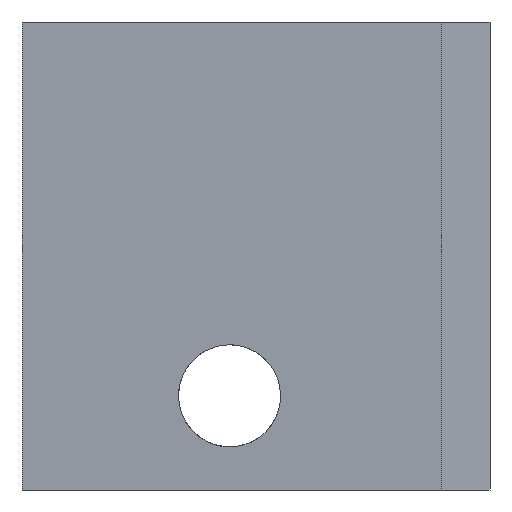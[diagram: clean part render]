
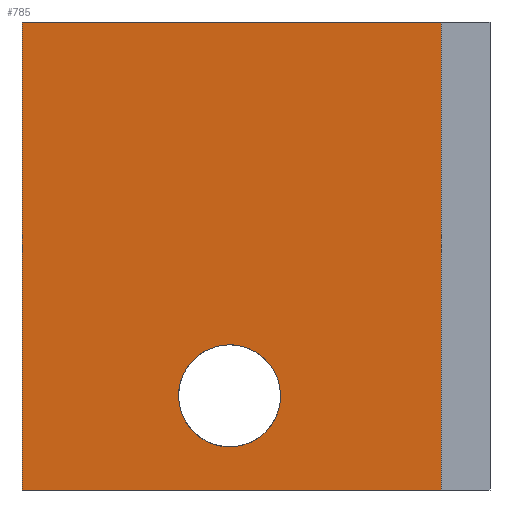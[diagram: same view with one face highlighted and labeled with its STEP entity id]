
A CAD part, front view. The second image highlights one B-rep face of the part: STEP entity #785.
In plain terms, the highlighted planar face has unit normal (0, -0.999, -0.055).
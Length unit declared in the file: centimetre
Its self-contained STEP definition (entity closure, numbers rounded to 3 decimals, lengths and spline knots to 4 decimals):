
#5 = CARTESIAN_POINT ( 'NONE',  ( 443.5305, 248.8283, 310.2442 ) ) ;
#42 = PLANE ( 'NONE',  #425 ) ;
#49 = DIRECTION ( 'NONE',  ( 0., 0.998, 0.055 ) ) ;
#64 = LINE ( 'NONE', #436, #907 ) ;
#92 = EDGE_LOOP ( 'NONE', ( #581, #515 ) ) ;
#121 = CARTESIAN_POINT ( 'NONE',  ( 895.4347, 210.9731, 1000. ) ) ;
#147 = VERTEX_POINT ( 'NONE', #197 ) ;
#154 = DIRECTION ( 'NONE',  ( -1., 0., 0. ) ) ;
#159 = VERTEX_POINT ( 'NONE', #781 ) ;
#161 = CARTESIAN_POINT ( 'NONE',  ( 225.4469, 260.7971, 92.1606 ) ) ;
#167 = CARTESIAN_POINT ( 'NONE',  ( 895.4347, 210.9731, 1000. ) ) ;
#183 = CARTESIAN_POINT ( 'NONE',  ( 895.4347, 265.8551, 0. ) ) ;
#195 = FACE_OUTER_BOUND ( 'NONE', #208, .T. ) ;
#197 = CARTESIAN_POINT ( 'NONE',  ( 443.5305, 260.7971, 92.1606 ) ) ;
#208 = EDGE_LOOP ( 'NONE', ( #470, #535, #405, #877 ) ) ;
#289 = DIRECTION ( 'NONE',  ( 0., 0.055, -0.998 ) ) ;
#309 = VERTEX_POINT ( 'NONE', #437 ) ;
#340 =( BOUNDED_CURVE ( )  B_SPLINE_CURVE ( 3, ( #5, #819, #161, #600 ),
 .UNSPECIFIED., .F., .T. ) 
 B_SPLINE_CURVE_WITH_KNOTS ( ( 4, 4 ),
 ( 3.1416, 6.2832 ),
 .UNSPECIFIED. ) 
 CURVE ( )  GEOMETRIC_REPRESENTATION_ITEM ( )  RATIONAL_B_SPLINE_CURVE ( ( 1., 0.333, 0.333, 1. ) ) 
 REPRESENTATION_ITEM ( '' )  );
#350 = EDGE_CURVE ( 'NONE', #782, #309, #511, .T. ) ;
#353 = DIRECTION ( 'NONE',  ( 0., -0.055, 0.998 ) ) ;
#371 = CARTESIAN_POINT ( 'NONE',  ( 661.6141, 248.8283, 310.2442 ) ) ;
#405 = ORIENTED_EDGE ( 'NONE', *, *, #892, .F. ) ;
#425 = AXIS2_PLACEMENT_3D ( 'NONE', #121, #49, #353 ) ;
#430 = EDGE_CURVE ( 'NONE', #147, #504, #661, .T. ) ;
#436 = CARTESIAN_POINT ( 'NONE',  ( 0., 210.9731, 1000. ) ) ;
#437 = CARTESIAN_POINT ( 'NONE',  ( 0., 210.9731, 1000. ) ) ;
#462 = DIRECTION ( 'NONE',  ( 0., 0.055, -0.998 ) ) ;
#468 = LINE ( 'NONE', #183, #567 ) ;
#470 = ORIENTED_EDGE ( 'NONE', *, *, #768, .T. ) ;
#504 = VERTEX_POINT ( 'NONE', #906 ) ;
#511 = LINE ( 'NONE', #810, #699 ) ;
#515 = ORIENTED_EDGE ( 'NONE', *, *, #430, .F. ) ;
#535 = ORIENTED_EDGE ( 'NONE', *, *, #614, .F. ) ;
#566 = CARTESIAN_POINT ( 'NONE',  ( 0., 265.8551, 0. ) ) ;
#567 = VECTOR ( 'NONE', #617, 100. ) ;
#581 = ORIENTED_EDGE ( 'NONE', *, *, #880, .F. ) ;
#600 = CARTESIAN_POINT ( 'NONE',  ( 443.5305, 260.7971, 92.1606 ) ) ;
#614 = EDGE_CURVE ( 'NONE', #159, #747, #468, .T. ) ;
#617 = DIRECTION ( 'NONE',  ( -1., 0., 0. ) ) ;
#655 = CARTESIAN_POINT ( 'NONE',  ( 443.5305, 248.8283, 310.2442 ) ) ;
#661 =( BOUNDED_CURVE ( )  B_SPLINE_CURVE ( 3, ( #801, #729, #371, #655 ),
 .UNSPECIFIED., .F., .T. ) 
 B_SPLINE_CURVE_WITH_KNOTS ( ( 4, 4 ),
 ( 0., 3.1416 ),
 .UNSPECIFIED. ) 
 CURVE ( )  GEOMETRIC_REPRESENTATION_ITEM ( )  RATIONAL_B_SPLINE_CURVE ( ( 1., 0.333, 0.333, 1. ) ) 
 REPRESENTATION_ITEM ( '' )  );
#699 = VECTOR ( 'NONE', #154, 100. ) ;
#727 = VECTOR ( 'NONE', #462, 100. ) ;
#729 = CARTESIAN_POINT ( 'NONE',  ( 661.6141, 260.7971, 92.1606 ) ) ;
#747 = VERTEX_POINT ( 'NONE', #566 ) ;
#749 = LINE ( 'NONE', #167, #727 ) ;
#768 = EDGE_CURVE ( 'NONE', #309, #747, #64, .T. ) ;
#778 = FACE_BOUND ( 'NONE', #92, .T. ) ;
#781 = CARTESIAN_POINT ( 'NONE',  ( 895.4347, 265.8551, 0. ) ) ;
#782 = VERTEX_POINT ( 'NONE', #854 ) ;
#785 = ADVANCED_FACE ( 'NONE', ( #195, #778 ), #42, .F. ) ;
#801 = CARTESIAN_POINT ( 'NONE',  ( 443.5305, 260.7971, 92.1606 ) ) ;
#810 = CARTESIAN_POINT ( 'NONE',  ( 895.4347, 210.9731, 1000. ) ) ;
#819 = CARTESIAN_POINT ( 'NONE',  ( 225.4469, 248.8283, 310.2442 ) ) ;
#854 = CARTESIAN_POINT ( 'NONE',  ( 895.4347, 210.9731, 1000. ) ) ;
#877 = ORIENTED_EDGE ( 'NONE', *, *, #350, .T. ) ;
#880 = EDGE_CURVE ( 'NONE', #504, #147, #340, .T. ) ;
#892 = EDGE_CURVE ( 'NONE', #782, #159, #749, .T. ) ;
#906 = CARTESIAN_POINT ( 'NONE',  ( 443.5305, 248.8283, 310.2442 ) ) ;
#907 = VECTOR ( 'NONE', #289, 100. ) ;
